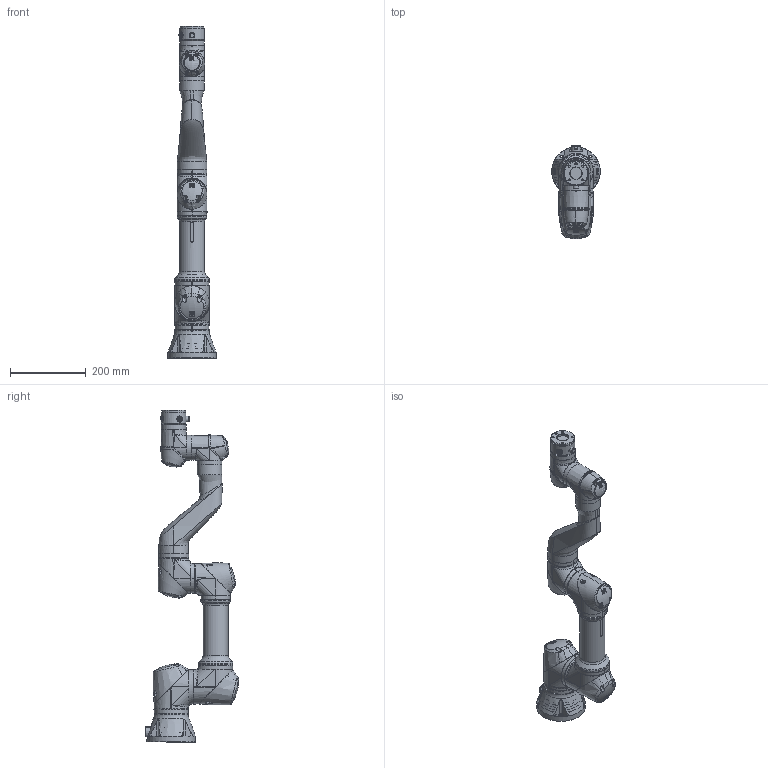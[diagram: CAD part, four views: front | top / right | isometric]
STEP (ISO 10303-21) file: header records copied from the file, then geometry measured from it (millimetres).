
FILE_DESCRIPTION(/* description */ (''),/* implementation_level */ '2;1');
FILE_NAME(/* name */ 'RB3-730ES(U-Version).stp',/* time_stamp */ '2024-08-22T12:05:57+09:00',/* author */ ('TK AHN'),/* organization */ (''),/* preprocessor_version */ 'ST-DEVELOPER v20',/* originating_system */ 'Autodesk Inventor 2025',/* authorisation */ '');
FILE_SCHEMA (('AUTOMOTIVE_DESIGN { 1 0 10303 214 3 1 1 }'));
Length unit declared in the file: millimetre
Products named in the file (8): RB3-730ES; RB3-730ES_BASE; RB3-730ES_LINK1; RB3-730ES_LINK2; RB3-730ES_LINK3; RB3-730ES_LINK4; RB3-730ES_LINK4_1; RB3-730ES_LINK6
Assembly tree (7 placements, depth 2):
  RB3-730ES
    RB3-730ES_BASE
    RB3-730ES_LINK1
    RB3-730ES_LINK2
    RB3-730ES_LINK3
    RB3-730ES_LINK4
    RB3-730ES_LINK4_1
    RB3-730ES_LINK6
Bounding box: 128 x 246.99 x 875.3 mm (x, y, z)
Volume: 6203641.7 mm3; surface area: 698199.7 mm2
Topology: 39 solids, 40 shells, 3056 faces, 8607 edges, 5817 vertices
Faces by surface type: plane 1278, cylinder 780, bspline 490, cone 260, torus 209, sphere 39
Full cylindrical faces by diameter (mm): 0.9 x16, 1.5 x10, 1.7 x20, 2.5 x16, 2.6 x10, 3 x4, 3.1 x10, 3.2 x4, 3.4 x4, 4.917 x4, 5 x1, 5.1 x18, 5.6 x4, 6 x1, 6.5 x1, 6.6 x4, 6.7 x1, 6.9 x1, 7.794 x1, 8.9 x1, 9 x2, 9.2 x1, 15.3 x1, 16 x1, 17.5 x1, 23 x1, 31.5 x1, 45 x2, 56.5 x6, 58.5 x2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
Entity records: 216201 total; most frequent: CARTESIAN_POINT 137340, ORIENTED_EDGE 17084, DIRECTION 14107, EDGE_CURVE 8542, VERTEX_POINT 5817, AXIS2_PLACEMENT_3D 5380, EDGE_LOOP 3351, LINE 3347
